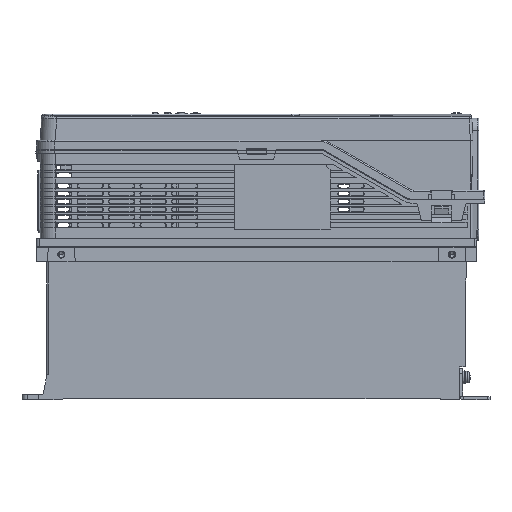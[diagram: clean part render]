
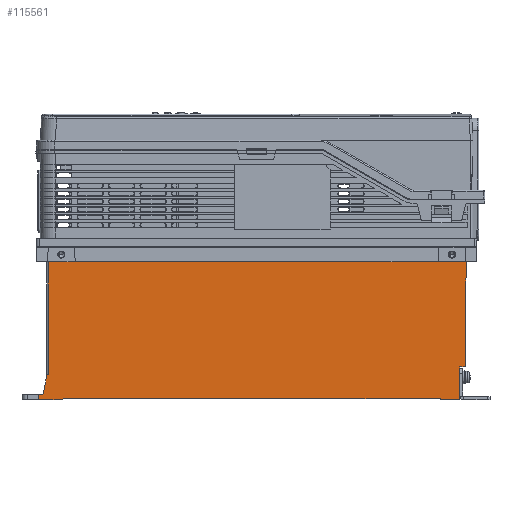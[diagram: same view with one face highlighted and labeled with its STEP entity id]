
A CAD part, left-side view. The second image highlights one B-rep face of the part: STEP entity #115561.
In plain terms, the highlighted planar face has unit normal (-1, 0, 0).
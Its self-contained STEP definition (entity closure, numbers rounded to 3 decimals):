
#31855=DIRECTION('',(0.,0.,-1.));
#31856=VECTOR('',#31855,0.846);
#31857=CARTESIAN_POINT('',(-2.244,-6.102,
0.957));
#31858=LINE('',#31857,#31856);
#31859=CARTESIAN_POINT('',(-2.244,5.748,
-0.157));
#31860=DIRECTION('',(-1.,0.,0.));
#31861=DIRECTION('',(0.,0.,1.));
#31862=AXIS2_PLACEMENT_3D('',#31859,#31860,#31861);
#31864=DIRECTION('',(0.,-1.,0.));
#31865=VECTOR('',#31864,0.138);
#31866=CARTESIAN_POINT('',(-2.244,6.555,
0.157));
#31867=LINE('',#31866,#31865);
#31868=DIRECTION('',(0.,-0.194,0.981));
#31869=VECTOR('',#31868,0.61);
#31870=CARTESIAN_POINT('',(-2.244,6.417,
0.157));
#31871=LINE('',#31870,#31869);
#31872=DIRECTION('',(0.,-1.,0.));
#31873=VECTOR('',#31872,0.039);
#31874=CARTESIAN_POINT('',(-2.244,6.299,
0.756));
#31875=LINE('',#31874,#31873);
#31876=DIRECTION('',(0.,-1.,0.));
#31877=VECTOR('',#31876,12.551);
#31878=CARTESIAN_POINT('',(-2.244,6.26,
4.146));
#31879=LINE('',#31878,#31877);
#31880=DIRECTION('',(0.,0.009,-1.));
#31881=VECTOR('',#31880,3.151);
#31882=CARTESIAN_POINT('',(-2.244,-6.291,
4.146));
#31883=LINE('',#31882,#31881);
#31908=DIRECTION('',(0.,0.,1.));
#31909=VECTOR('',#31908,0.038);
#31910=CARTESIAN_POINT('',(-2.244,-6.102,
0.957));
#31911=LINE('',#31910,#31909);
#31936=DIRECTION('',(0.,-1.,0.));
#31937=VECTOR('',#31936,0.161);
#31938=CARTESIAN_POINT('',(-2.244,-6.102,
0.995));
#31939=LINE('',#31938,#31937);
#32477=DIRECTION('',(0.,-1.,0.));
#32478=VECTOR('',#32477,0.689);
#32479=CARTESIAN_POINT('',(-2.244,6.555,0.));
#32480=LINE('',#32479,#32478);
#32850=DIRECTION('',(0.,-1.,0.));
#32851=VECTOR('',#32850,11.26);
#32852=CARTESIAN_POINT('',(-2.244,5.748,
0.039));
#32853=LINE('',#32852,#32851);
#32862=DIRECTION('',(0.,0.,-1.));
#32863=VECTOR('',#32862,0.039);
#32864=CARTESIAN_POINT('',(-2.244,-5.512,
0.039));
#32865=LINE('',#32864,#32863);
#32887=DIRECTION('',(0.,-1.,0.));
#32888=VECTOR('',#32887,0.591);
#32889=CARTESIAN_POINT('',(-2.244,-5.512,0.));
#32890=LINE('',#32889,#32888);
#35707=DIRECTION('',(0.,0.,1.));
#35708=VECTOR('',#35707,0.11);
#35709=CARTESIAN_POINT('',(-2.244,-6.102,0.));
#35710=LINE('',#35709,#35708);
#36104=DIRECTION('',(0.,0.,-1.));
#36105=VECTOR('',#36104,3.39);
#36106=CARTESIAN_POINT('',(-2.244,6.26,
4.146));
#36107=LINE('',#36106,#36105);
#36441=DIRECTION('',(0.,0.,-1.));
#36442=VECTOR('',#36441,0.157);
#36443=CARTESIAN_POINT('',(-2.244,6.555,
0.157));
#36444=LINE('',#36443,#36442);
#68238=CARTESIAN_POINT('',(-2.244,6.26,
4.146));
#68239=CARTESIAN_POINT('',(-2.244,-6.291,
4.146));
#68240=VERTEX_POINT('',#68238);
#68241=VERTEX_POINT('',#68239);
#69411=CARTESIAN_POINT('',(-2.244,-6.102,
0.957));
#69412=CARTESIAN_POINT('',(-2.244,-6.102,
0.11));
#69413=VERTEX_POINT('',#69411);
#69414=VERTEX_POINT('',#69412);
#69415=CARTESIAN_POINT('',(-2.244,-6.102,0.));
#69416=VERTEX_POINT('',#69415);
#69417=CARTESIAN_POINT('',(-2.244,-5.512,0.));
#69418=VERTEX_POINT('',#69417);
#69419=CARTESIAN_POINT('',(-2.244,-5.512,
0.039));
#69420=VERTEX_POINT('',#69419);
#69421=CARTESIAN_POINT('',(-2.244,5.748,
0.039));
#69422=VERTEX_POINT('',#69421);
#69423=CARTESIAN_POINT('',(-2.244,5.866,0.));
#69424=VERTEX_POINT('',#69423);
#69425=CARTESIAN_POINT('',(-2.244,6.555,0.));
#69426=VERTEX_POINT('',#69425);
#69427=CARTESIAN_POINT('',(-2.244,6.555,
0.157));
#69428=VERTEX_POINT('',#69427);
#69429=CARTESIAN_POINT('',(-2.244,6.417,
0.157));
#69430=VERTEX_POINT('',#69429);
#69431=CARTESIAN_POINT('',(-2.244,6.299,
0.756));
#69432=VERTEX_POINT('',#69431);
#69433=CARTESIAN_POINT('',(-2.244,6.26,
0.756));
#69434=VERTEX_POINT('',#69433);
#69435=CARTESIAN_POINT('',(-2.244,-6.264,
0.995));
#69436=VERTEX_POINT('',#69435);
#69437=CARTESIAN_POINT('',(-2.244,-6.102,
0.995));
#69438=VERTEX_POINT('',#69437);
#115523=CARTESIAN_POINT('',(-2.244,-6.291,
4.146));
#115524=DIRECTION('',(-1.,0.,0.));
#115525=DIRECTION('',(0.,1.,0.));
#115526=AXIS2_PLACEMENT_3D('',#115523,#115524,#115525);
#115527=PLANE('',#115526);
#115529=ORIENTED_EDGE('',*,*,#115528,.T.);
#115531=ORIENTED_EDGE('',*,*,#115530,.F.);
#115533=ORIENTED_EDGE('',*,*,#115532,.F.);
#115535=ORIENTED_EDGE('',*,*,#115534,.F.);
#115537=ORIENTED_EDGE('',*,*,#115536,.F.);
#115539=ORIENTED_EDGE('',*,*,#115538,.T.);
#115541=ORIENTED_EDGE('',*,*,#115540,.F.);
#115543=ORIENTED_EDGE('',*,*,#115542,.F.);
#115545=ORIENTED_EDGE('',*,*,#115544,.T.);
#115547=ORIENTED_EDGE('',*,*,#115546,.T.);
#115549=ORIENTED_EDGE('',*,*,#115548,.T.);
#115551=ORIENTED_EDGE('',*,*,#115550,.F.);
#115552=ORIENTED_EDGE('',*,*,#91564,.T.);
#115554=ORIENTED_EDGE('',*,*,#115553,.T.);
#115556=ORIENTED_EDGE('',*,*,#115555,.F.);
#115558=ORIENTED_EDGE('',*,*,#115557,.F.);
#115559=EDGE_LOOP('',(#115529,#115531,#115533,#115535,#115537,#115539,#115541,
#115543,#115545,#115547,#115549,#115551,#115552,#115554,#115556,#115558));
#115560=FACE_OUTER_BOUND('',#115559,.F.);
#115561=ADVANCED_FACE('',(#115560),#115527,.T.);
#31863=CIRCLE('',#31862,0.197);
#91564=EDGE_CURVE('',#68240,#68241,#31879,.T.);
#115528=EDGE_CURVE('',#69413,#69414,#31858,.T.);
#115530=EDGE_CURVE('',#69416,#69414,#35710,.T.);
#115532=EDGE_CURVE('',#69418,#69416,#32890,.T.);
#115534=EDGE_CURVE('',#69420,#69418,#32865,.T.);
#115536=EDGE_CURVE('',#69422,#69420,#32853,.T.);
#115538=EDGE_CURVE('',#69422,#69424,#31863,.T.);
#115540=EDGE_CURVE('',#69426,#69424,#32480,.T.);
#115542=EDGE_CURVE('',#69428,#69426,#36444,.T.);
#115544=EDGE_CURVE('',#69428,#69430,#31867,.T.);
#115546=EDGE_CURVE('',#69430,#69432,#31871,.T.);
#115548=EDGE_CURVE('',#69432,#69434,#31875,.T.);
#115550=EDGE_CURVE('',#68240,#69434,#36107,.T.);
#115553=EDGE_CURVE('',#68241,#69436,#31883,.T.);
#115555=EDGE_CURVE('',#69438,#69436,#31939,.T.);
#115557=EDGE_CURVE('',#69413,#69438,#31911,.T.);
